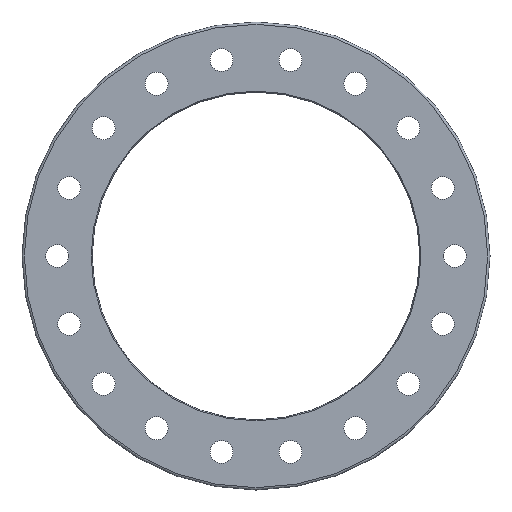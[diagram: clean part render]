
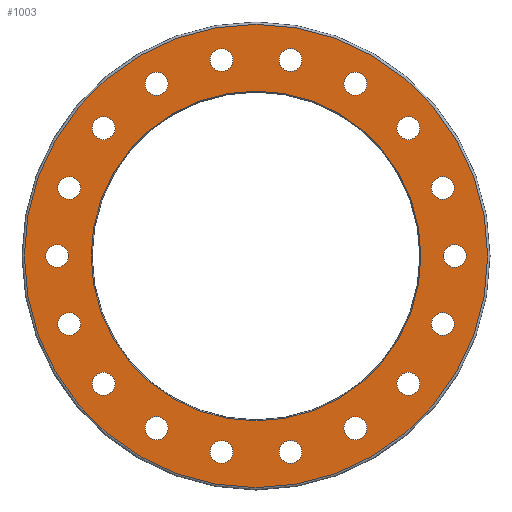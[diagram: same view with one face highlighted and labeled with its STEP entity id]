
A CAD part, left-side view. The second image highlights one B-rep face of the part: STEP entity #1003.
In plain terms, the highlighted planar face has unit normal (-1, 0, 0).
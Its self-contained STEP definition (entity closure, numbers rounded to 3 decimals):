
#68=PLANE('',#1101);
#93=FACE_BOUND('',#302,.T.);
#94=FACE_BOUND('',#303,.T.);
#95=FACE_BOUND('',#304,.T.);
#96=FACE_BOUND('',#305,.T.);
#97=FACE_BOUND('',#306,.T.);
#98=FACE_BOUND('',#307,.T.);
#99=FACE_BOUND('',#308,.T.);
#100=FACE_BOUND('',#309,.T.);
#101=FACE_BOUND('',#310,.T.);
#102=FACE_BOUND('',#311,.T.);
#103=FACE_BOUND('',#312,.T.);
#104=FACE_BOUND('',#313,.T.);
#105=FACE_BOUND('',#314,.T.);
#106=FACE_BOUND('',#315,.T.);
#107=FACE_BOUND('',#316,.T.);
#108=FACE_BOUND('',#317,.T.);
#109=FACE_BOUND('',#318,.T.);
#110=FACE_BOUND('',#319,.T.);
#111=FACE_BOUND('',#320,.T.);
#213=FACE_OUTER_BOUND('',#301,.T.);
#301=EDGE_LOOP('',(#811));
#302=EDGE_LOOP('',(#812));
#303=EDGE_LOOP('',(#813));
#304=EDGE_LOOP('',(#814));
#305=EDGE_LOOP('',(#815));
#306=EDGE_LOOP('',(#816));
#307=EDGE_LOOP('',(#817));
#308=EDGE_LOOP('',(#818));
#309=EDGE_LOOP('',(#819));
#310=EDGE_LOOP('',(#820));
#311=EDGE_LOOP('',(#821));
#312=EDGE_LOOP('',(#822));
#313=EDGE_LOOP('',(#823));
#314=EDGE_LOOP('',(#824));
#315=EDGE_LOOP('',(#825));
#316=EDGE_LOOP('',(#826));
#317=EDGE_LOOP('',(#827));
#318=EDGE_LOOP('',(#828));
#319=EDGE_LOOP('',(#829));
#320=EDGE_LOOP('',(#830));
#501=CIRCLE('',#1099,495.);
#503=CIRCLE('',#1102,352.309);
#504=CIRCLE('',#1103,24.482);
#505=CIRCLE('',#1104,24.482);
#506=CIRCLE('',#1105,24.482);
#507=CIRCLE('',#1106,24.482);
#508=CIRCLE('',#1107,24.482);
#509=CIRCLE('',#1108,24.482);
#510=CIRCLE('',#1109,24.482);
#511=CIRCLE('',#1110,24.482);
#512=CIRCLE('',#1111,24.482);
#513=CIRCLE('',#1112,24.482);
#514=CIRCLE('',#1113,24.482);
#515=CIRCLE('',#1114,24.482);
#516=CIRCLE('',#1115,24.482);
#517=CIRCLE('',#1116,24.482);
#518=CIRCLE('',#1117,24.482);
#519=CIRCLE('',#1118,24.482);
#520=CIRCLE('',#1119,24.482);
#521=CIRCLE('',#1120,24.482);
#603=VERTEX_POINT('',#1628);
#605=VERTEX_POINT('',#1633);
#606=VERTEX_POINT('',#1635);
#607=VERTEX_POINT('',#1637);
#608=VERTEX_POINT('',#1639);
#609=VERTEX_POINT('',#1641);
#610=VERTEX_POINT('',#1643);
#611=VERTEX_POINT('',#1645);
#612=VERTEX_POINT('',#1647);
#613=VERTEX_POINT('',#1649);
#614=VERTEX_POINT('',#1651);
#615=VERTEX_POINT('',#1653);
#616=VERTEX_POINT('',#1655);
#617=VERTEX_POINT('',#1657);
#618=VERTEX_POINT('',#1659);
#619=VERTEX_POINT('',#1661);
#620=VERTEX_POINT('',#1663);
#621=VERTEX_POINT('',#1665);
#622=VERTEX_POINT('',#1667);
#623=VERTEX_POINT('',#1669);
#705=EDGE_CURVE('',#603,#603,#501,.T.);
#707=EDGE_CURVE('',#605,#605,#503,.T.);
#708=EDGE_CURVE('',#606,#606,#504,.T.);
#709=EDGE_CURVE('',#607,#607,#505,.T.);
#710=EDGE_CURVE('',#608,#608,#506,.T.);
#711=EDGE_CURVE('',#609,#609,#507,.T.);
#712=EDGE_CURVE('',#610,#610,#508,.T.);
#713=EDGE_CURVE('',#611,#611,#509,.T.);
#714=EDGE_CURVE('',#612,#612,#510,.T.);
#715=EDGE_CURVE('',#613,#613,#511,.T.);
#716=EDGE_CURVE('',#614,#614,#512,.T.);
#717=EDGE_CURVE('',#615,#615,#513,.T.);
#718=EDGE_CURVE('',#616,#616,#514,.T.);
#719=EDGE_CURVE('',#617,#617,#515,.T.);
#720=EDGE_CURVE('',#618,#618,#516,.T.);
#721=EDGE_CURVE('',#619,#619,#517,.T.);
#722=EDGE_CURVE('',#620,#620,#518,.T.);
#723=EDGE_CURVE('',#621,#621,#519,.T.);
#724=EDGE_CURVE('',#622,#622,#520,.T.);
#725=EDGE_CURVE('',#623,#623,#521,.T.);
#811=ORIENTED_EDGE('',*,*,#705,.F.);
#812=ORIENTED_EDGE('',*,*,#707,.F.);
#813=ORIENTED_EDGE('',*,*,#708,.T.);
#814=ORIENTED_EDGE('',*,*,#709,.T.);
#815=ORIENTED_EDGE('',*,*,#710,.T.);
#816=ORIENTED_EDGE('',*,*,#711,.T.);
#817=ORIENTED_EDGE('',*,*,#712,.T.);
#818=ORIENTED_EDGE('',*,*,#713,.T.);
#819=ORIENTED_EDGE('',*,*,#714,.T.);
#820=ORIENTED_EDGE('',*,*,#715,.T.);
#821=ORIENTED_EDGE('',*,*,#716,.T.);
#822=ORIENTED_EDGE('',*,*,#717,.T.);
#823=ORIENTED_EDGE('',*,*,#718,.T.);
#824=ORIENTED_EDGE('',*,*,#719,.T.);
#825=ORIENTED_EDGE('',*,*,#720,.T.);
#826=ORIENTED_EDGE('',*,*,#721,.T.);
#827=ORIENTED_EDGE('',*,*,#722,.T.);
#828=ORIENTED_EDGE('',*,*,#723,.T.);
#829=ORIENTED_EDGE('',*,*,#724,.T.);
#830=ORIENTED_EDGE('',*,*,#725,.T.);
#1003=ADVANCED_FACE('',(#213,#93,#94,#95,#96,#97,#98,#99,#100,#101,#102,
#103,#104,#105,#106,#107,#108,#109,#110,#111),#68,.T.);
#1099=AXIS2_PLACEMENT_3D('',#1629,#1295,#1296);
#1101=AXIS2_PLACEMENT_3D('',#1632,#1299,#1300);
#1102=AXIS2_PLACEMENT_3D('',#1634,#1301,#1302);
#1103=AXIS2_PLACEMENT_3D('',#1636,#1303,#1304);
#1104=AXIS2_PLACEMENT_3D('',#1638,#1305,#1306);
#1105=AXIS2_PLACEMENT_3D('',#1640,#1307,#1308);
#1106=AXIS2_PLACEMENT_3D('',#1642,#1309,#1310);
#1107=AXIS2_PLACEMENT_3D('',#1644,#1311,#1312);
#1108=AXIS2_PLACEMENT_3D('',#1646,#1313,#1314);
#1109=AXIS2_PLACEMENT_3D('',#1648,#1315,#1316);
#1110=AXIS2_PLACEMENT_3D('',#1650,#1317,#1318);
#1111=AXIS2_PLACEMENT_3D('',#1652,#1319,#1320);
#1112=AXIS2_PLACEMENT_3D('',#1654,#1321,#1322);
#1113=AXIS2_PLACEMENT_3D('',#1656,#1323,#1324);
#1114=AXIS2_PLACEMENT_3D('',#1658,#1325,#1326);
#1115=AXIS2_PLACEMENT_3D('',#1660,#1327,#1328);
#1116=AXIS2_PLACEMENT_3D('',#1662,#1329,#1330);
#1117=AXIS2_PLACEMENT_3D('',#1664,#1331,#1332);
#1118=AXIS2_PLACEMENT_3D('',#1666,#1333,#1334);
#1119=AXIS2_PLACEMENT_3D('',#1668,#1335,#1336);
#1120=AXIS2_PLACEMENT_3D('',#1670,#1337,#1338);
#1295=DIRECTION('center_axis',(1.,0.,0.));
#1296=DIRECTION('ref_axis',(0.,-1.,0.));
#1299=DIRECTION('center_axis',(-1.,0.,0.));
#1300=DIRECTION('ref_axis',(0.,0.,1.));
#1301=DIRECTION('center_axis',(-1.,0.,0.));
#1302=DIRECTION('ref_axis',(0.,-1.,0.));
#1303=DIRECTION('center_axis',(1.,0.,0.));
#1304=DIRECTION('ref_axis',(0.,-0.342,-0.94));
#1305=DIRECTION('center_axis',(1.,0.,0.));
#1306=DIRECTION('ref_axis',(0.,-0.643,-0.766));
#1307=DIRECTION('center_axis',(1.,0.,0.));
#1308=DIRECTION('ref_axis',(0.,-0.866,-0.5));
#1309=DIRECTION('center_axis',(1.,0.,0.));
#1310=DIRECTION('ref_axis',(0.,-0.985,-0.174));
#1311=DIRECTION('center_axis',(1.,0.,0.));
#1312=DIRECTION('ref_axis',(0.,-0.985,0.174));
#1313=DIRECTION('center_axis',(1.,0.,0.));
#1314=DIRECTION('ref_axis',(0.,-0.866,0.5));
#1315=DIRECTION('center_axis',(1.,0.,0.));
#1316=DIRECTION('ref_axis',(0.,-0.643,0.766));
#1317=DIRECTION('center_axis',(1.,0.,0.));
#1318=DIRECTION('ref_axis',(0.,-0.342,0.94));
#1319=DIRECTION('center_axis',(1.,0.,0.));
#1320=DIRECTION('ref_axis',(0.,0.,1.));
#1321=DIRECTION('center_axis',(1.,0.,0.));
#1322=DIRECTION('ref_axis',(0.,0.342,0.94));
#1323=DIRECTION('center_axis',(1.,0.,0.));
#1324=DIRECTION('ref_axis',(0.,0.643,0.766));
#1325=DIRECTION('center_axis',(1.,0.,0.));
#1326=DIRECTION('ref_axis',(0.,0.866,0.5));
#1327=DIRECTION('center_axis',(1.,0.,0.));
#1328=DIRECTION('ref_axis',(0.,0.985,0.174));
#1329=DIRECTION('center_axis',(1.,0.,0.));
#1330=DIRECTION('ref_axis',(0.,0.985,-0.174));
#1331=DIRECTION('center_axis',(1.,0.,0.));
#1332=DIRECTION('ref_axis',(0.,0.866,-0.5));
#1333=DIRECTION('center_axis',(1.,0.,0.));
#1334=DIRECTION('ref_axis',(0.,0.643,-0.766));
#1335=DIRECTION('center_axis',(1.,0.,0.));
#1336=DIRECTION('ref_axis',(0.,0.342,-0.94));
#1337=DIRECTION('center_axis',(1.,0.,0.));
#1338=DIRECTION('ref_axis',(0.,0.,-1.));
#1628=CARTESIAN_POINT('',(-125.,495.,0.));
#1629=CARTESIAN_POINT('Origin',(-125.,0.,0.));
#1632=CARTESIAN_POINT('Origin',(-125.,425.,0.));
#1633=CARTESIAN_POINT('',(-125.,352.309,0.));
#1634=CARTESIAN_POINT('Origin',(-125.,0.,0.));
#1635=CARTESIAN_POINT('',(-125.,-390.996,168.364));
#1636=CARTESIAN_POINT('Origin',(-125.,-399.369,145.359));
#1637=CARTESIAN_POINT('',(-125.,-309.832,291.939));
#1638=CARTESIAN_POINT('Origin',(-125.,-325.569,273.185));
#1639=CARTESIAN_POINT('',(-125.,-191.298,380.302));
#1640=CARTESIAN_POINT('Origin',(-125.,-212.5,368.061));
#1641=CARTESIAN_POINT('',(-125.,-49.69,422.795));
#1642=CARTESIAN_POINT('Origin',(-125.,-73.8,418.543));
#1643=CARTESIAN_POINT('',(-125.,97.911,414.292));
#1644=CARTESIAN_POINT('Origin',(-125.,73.8,418.543));
#1645=CARTESIAN_POINT('',(-125.,233.702,355.82));
#1646=CARTESIAN_POINT('Origin',(-125.,212.5,368.061));
#1647=CARTESIAN_POINT('',(-125.,341.306,254.43));
#1648=CARTESIAN_POINT('Origin',(-125.,325.569,273.185));
#1649=CARTESIAN_POINT('',(-125.,407.743,122.353));
#1650=CARTESIAN_POINT('Origin',(-125.,399.369,145.359));
#1651=CARTESIAN_POINT('',(-125.,425.,-24.482));
#1652=CARTESIAN_POINT('Origin',(-125.,425.,0.));
#1653=CARTESIAN_POINT('',(-125.,390.996,-168.364));
#1654=CARTESIAN_POINT('Origin',(-125.,399.369,-145.359));
#1655=CARTESIAN_POINT('',(-125.,309.832,-291.939));
#1656=CARTESIAN_POINT('Origin',(-125.,325.569,-273.185));
#1657=CARTESIAN_POINT('',(-125.,191.298,-380.302));
#1658=CARTESIAN_POINT('Origin',(-125.,212.5,-368.061));
#1659=CARTESIAN_POINT('',(-125.,49.69,-422.795));
#1660=CARTESIAN_POINT('Origin',(-125.,73.8,-418.543));
#1661=CARTESIAN_POINT('',(-125.,-97.911,-414.292));
#1662=CARTESIAN_POINT('Origin',(-125.,-73.8,-418.543));
#1663=CARTESIAN_POINT('',(-125.,-233.702,-355.82));
#1664=CARTESIAN_POINT('Origin',(-125.,-212.5,-368.061));
#1665=CARTESIAN_POINT('',(-125.,-341.306,-254.43));
#1666=CARTESIAN_POINT('Origin',(-125.,-325.569,-273.185));
#1667=CARTESIAN_POINT('',(-125.,-407.743,-122.353));
#1668=CARTESIAN_POINT('Origin',(-125.,-399.369,-145.359));
#1669=CARTESIAN_POINT('',(-125.,-425.,24.482));
#1670=CARTESIAN_POINT('Origin',(-125.,-425.,0.));
